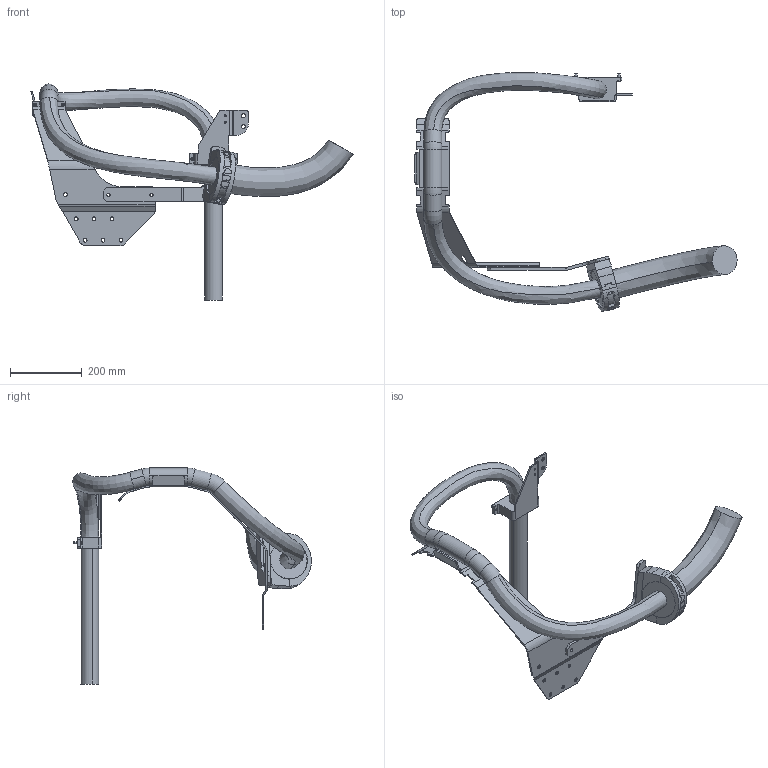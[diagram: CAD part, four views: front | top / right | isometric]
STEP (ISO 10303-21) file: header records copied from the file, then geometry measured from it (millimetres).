
FILE_DESCRIPTION (( 'STEP AP214' ), '1' );
FILE_NAME ('IRB6730-LID-SW_190kg-310_OC_00_LINK01_CABLE.step', '2026-05-26T09:13:47', ( '' ), ( '' ), 'SwSTEP 2.0', 'SolidWorks 2024', '' );
FILE_SCHEMA (( 'AUTOMOTIVE_DESIGN' ));
Length unit declared in the file: millimetre
Products named in the file (1): IRB6730-LID-SW_190kg-310_OC_00_LINK01_CABLE
Bounding box: 898.02 x 665.86 x 602.16 mm (x, y, z)
Volume: 6968953.2 mm3; surface area: 706491.6 mm2
Topology: 1 solids, 1 shells, 388 faces, 1007 edges, 634 vertices
Faces by surface type: plane 204, cylinder 162, bspline 15, cone 4, torus 3
Entity records: 20129 total; most frequent: CARTESIAN_POINT 6280, ORIENTED_EDGE 2014, DIRECTION 1988, EDGE_CURVE 1007, AXIS2_PLACEMENT_3D 697, VERTEX_POINT 634, LINE 594, VECTOR 594
